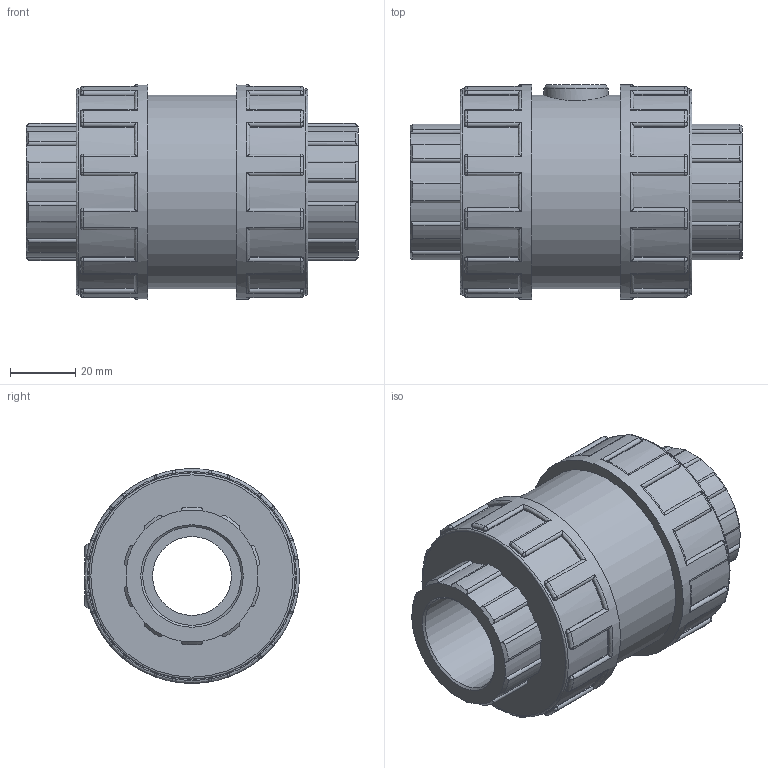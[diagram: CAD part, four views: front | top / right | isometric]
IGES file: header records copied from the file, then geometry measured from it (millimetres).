
Global section: file name: 11081010.ipt; native system: Autodesk Inventor 2015; preprocessor: unknown; author: KIM; date: 20171207.170050; units: millimetre
Bounding box: 102 x 66 x 66 mm (x, y, z)
Volume: 203909.3 mm3; surface area: 34724.4 mm2
Topology: 1 solids, 1 shells, 411 faces, 1033 edges, 630 vertices
Faces by surface type: cylinder 182, plane 105, revolution 56, sphere 48, cone 20
Full cylindrical faces by diameter (mm): 19.8 x1, 59.4 x1, 63.36 x2, 66 x2
